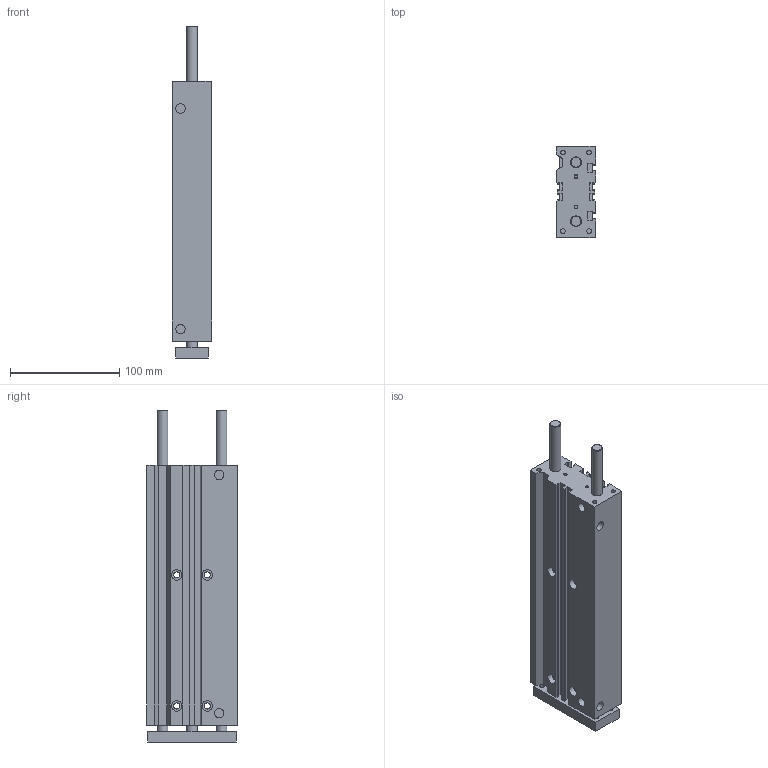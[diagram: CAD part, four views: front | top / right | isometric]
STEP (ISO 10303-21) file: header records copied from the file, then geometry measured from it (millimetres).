
FILE_DESCRIPTION((''),'2;1');
FILE_NAME('K:\A-Mauro\_Inventor\LIBRERIE\6100\6100_#_#_#\6100200200C.stp','2007-02-26T08:57:03',('valotma1'),(''),'Autodesk Inventor 11','Autodesk Inventor 11','');
FILE_SCHEMA(('AUTOMOTIVE_DESIGN { 1 0 10303 214 1 1 1 1 }'));
Length unit declared in the file: millimetre
Products named in the file (3): 6100200200C; CORPO Ø20 C200 C; PIASTRA Ø20 C200 C
Assembly tree (2 placements, depth 2):
  6100200200C
    CORPO Ø20 C200 C
    PIASTRA Ø20 C200 C
Bounding box: 36 x 83 x 304 mm (x, y, z)
Volume: 670966.7 mm3; surface area: 137954.1 mm2
Topology: 2 solids, 2 shells, 158 faces, 393 edges, 261 vertices
Faces by surface type: plane 95, bspline 52, cylinder 9, cone 2
Full cylindrical faces by diameter (mm): 10 x3
Entity records: 4932 total; most frequent: CARTESIAN_POINT 1329, ORIENTED_EDGE 702, DIRECTION 654, EDGE_CURVE 351, VECTOR 270, LINE 270, VERTEX_POINT 253, EDGE_LOOP 234
